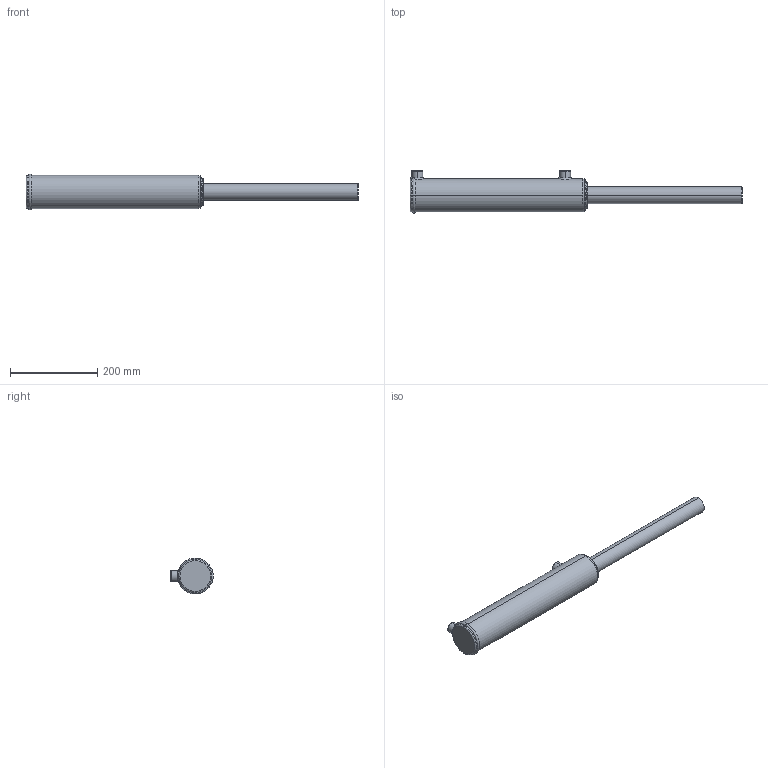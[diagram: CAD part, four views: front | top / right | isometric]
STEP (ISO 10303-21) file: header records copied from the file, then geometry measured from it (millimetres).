
FILE_DESCRIPTION (( 'STEP AP203' ), '1' );
FILE_NAME ('BL250150x305 (12) extended.STEP', '2014-11-25T01:21:27', ( '' ), ( '' ), 'SwSTEP 2.0', 'SolidWorks 2014', '' );
FILE_SCHEMA (( 'CONFIG_CONTROL_DESIGN' ));
Length unit declared in the file: millimetre
Products named in the file (3): BL250150x305 (12) extended; BL body 2.5_2.5x12; Spare_2.5x12
Assembly tree (2 placements, depth 2):
  BL250150x305 (12) extended
    BL body 2.5_2.5x12
    Spare_2.5x12
Bounding box: 760 x 97.2 x 82.2 mm (x, y, z)
Volume: 2028601 mm3; surface area: 192163.8 mm2
Topology: 2 solids, 2 shells, 88 faces, 205 edges, 126 vertices
Faces by surface type: cylinder 32, plane 20, torus 18, bspline 10, cone 8
Entity records: 5772 total; most frequent: CARTESIAN_POINT 3521, DIRECTION 422, ORIENTED_EDGE 402, EDGE_CURVE 201, AXIS2_PLACEMENT_3D 182, VERTEX_POINT 126, EDGE_LOOP 101, CIRCLE 99
